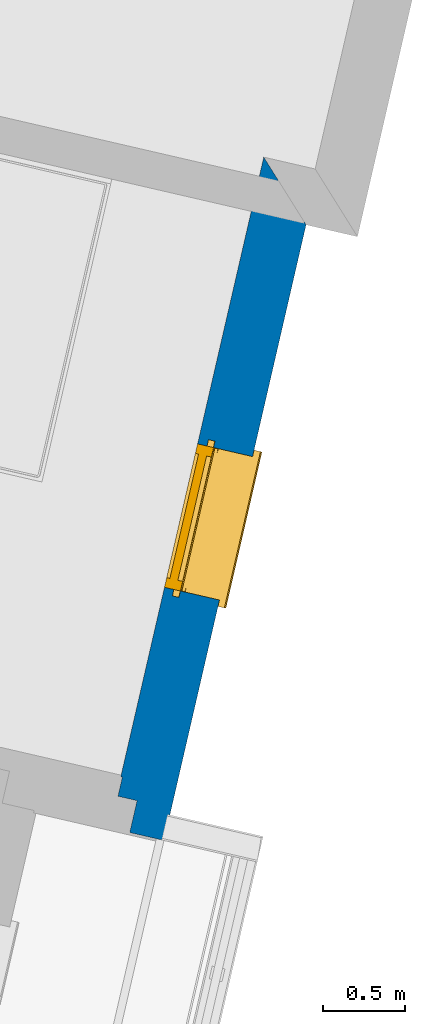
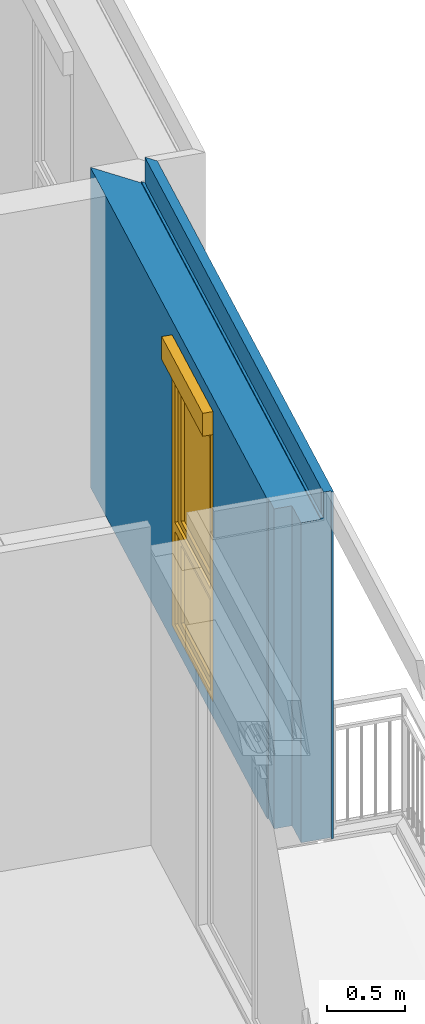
# One storey, part 17 of 91: 1 wall, 1 window, 1 opening.
"""IFC2X3 building model written with IfcOpenShell, lengths in metres."""

from ifc_helpers import new_model, entity, si_unit, converted_unit, derived_unit, money_unit, direction, frame, origin_with_axes, place, context, subcontext, project, spatial, open_shell, faceted_brep, surface_model, source, transform, mapped, material, material_list, type_object, element, fill, save


model = new_model("IFC2X3")

# Units and contexts
model_context = context("Model", 3, precision=1e-05, world=origin_with_axes(), true_north=direction((0.0, 1.0)))
body_context = subcontext(model_context, "Body", "Model", "MODEL_VIEW")
ifc_project = project(units=[si_unit("LENGTHUNIT", "METRE"), si_unit("AREAUNIT", "SQUARE_METRE"), si_unit("VOLUMEUNIT", "CUBIC_METRE"), converted_unit("PLANEANGLEUNIT", "DEGREE", entity("IfcPlaneAngleMeasure", 0.0174532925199), si_unit("PLANEANGLEUNIT", "RADIAN"), dimensions=[0, 0, 0, 0, 0, 0, 0]), si_unit("SOLIDANGLEUNIT", "STERADIAN"), money_unit("EUR"), converted_unit("TIMEUNIT", "Year", entity("IfcTimeMeasure", 31556926.0), si_unit("TIMEUNIT", "SECOND"), dimensions=[0, 0, 1, 0, 0, 0, 0]), si_unit("MASSUNIT", "GRAM", prefix="KILO"), si_unit("THERMODYNAMICTEMPERATUREUNIT", "DEGREE_CELSIUS"), si_unit("LUMINOUSINTENSITYUNIT", "LUMEN"), si_unit("ENERGYUNIT", "JOULE", prefix="MEGA"), derived_unit("THERMALCONDUCTANCEUNIT", [(si_unit("POWERUNIT", "WATT"), 1), (si_unit("LENGTHUNIT", "METRE"), -1), (si_unit("THERMODYNAMICTEMPERATUREUNIT", "KELVIN"), -1)]), derived_unit("SPECIFICHEATCAPACITYUNIT", [(si_unit("ENERGYUNIT", "JOULE"), 1), (si_unit("MASSUNIT", "GRAM", prefix="KILO"), -1), (si_unit("THERMODYNAMICTEMPERATUREUNIT", "KELVIN"), -1)]), derived_unit("MASSDENSITYUNIT", [(si_unit("MASSUNIT", "GRAM", prefix="KILO"), 1), (si_unit("VOLUMEUNIT", "CUBIC_METRE"), -1)])], contexts=[model_context])

# Site, building, storey
site_placement = place(None, origin_with_axes())
site = spatial("IfcSite", under=ifc_project, at=site_placement, Name="Site", CompositionType="ELEMENT")
building_placement = place(site_placement, origin_with_axes())
building = spatial("IfcBuilding", under=site, at=building_placement, Name="Bâtiment", CompositionType="ELEMENT")
storey_placement = place(building_placement, frame((0.0, 0.0, 5.44), z_axis=(0.0, 0.0, 1.0), x_axis=(1.0, 0.0, 0.0)))
storey = spatial("IfcBuildingStorey", under=building, at=storey_placement, Name="R+2", CompositionType="ELEMENT", Elevation=5.44)

# Wall, opening, window
ifc_material_1 = material(Name="Finition ext - Crépis")
ifc_material_2 = material(Name="Béton cellulaire")
ifc_material_3 = material(Name="Mortier")
ifc_material_4 = material(Name="Isolation - Polystyrène expansé")
ifc_material_5 = material(Name="Bloc ELITHERM")
ifc_material_6 = material(Name="Isolation - Polystyrène extrudé")
ifc_material_7 = material(Name="Finition int - Plaque de plâtre")
ifc_material_list = material_list([ifc_material_1, ifc_material_2, ifc_material_3, ifc_material_4, ifc_material_5, ifc_material_6, ifc_material_7])
wall_type = type_object("IfcWallType", Name="Mur ALKERN + planelle 21 345 x 2720", PredefinedType="USERDEFINED")
wall_placement = place(storey_placement, frame((-5.36567437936, -10.3303941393, 0.0), z_axis=(0.0, 0.0, 1.0), x_axis=(-0.224876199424, -0.974387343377, 0.0)))
wall = element("IfcWall", 1, at=wall_placement, inside=storey, type_object=wall_type, material=ifc_material_list, Name="Mue bloc ALKERN isolé", ObjectType="SOLIDWALL", context=body_context, shape_type="Brep", body=[
    faceted_brep([(1.4538266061, -0.0149999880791, 0.12), (1.4538266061, 0.0, 0.12), (1.4538266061, 0.0, 2.22), (1.4538266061, -0.0149999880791, 2.22), (1.4538266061, -7.00355196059e-09, 0.06), (1.4538266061, -0.0149999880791, 0.06), (3.70232660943, -7.00355373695e-09, 0.01), (3.70232660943, -3.16101811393e-10, 0.0), (-7.00355506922e-09, -7.0035515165e-09, 0.0), (-7.00355506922e-09, -7.0035515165e-09, 2.72), (3.87732660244, 0.0, 2.72), (3.87732660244, 0.0, 0.0), (3.86232660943, 0.0, 0.0), (3.85234608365, -7.00355373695e-09, 0.0106237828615), (3.71230713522, -7.00355373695e-09, 0.0193762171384), (2.3538266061, -7.00355329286e-09, 0.06), (2.3538266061, 0.0, 0.12), (2.3538266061, 0.0, 2.22), (2.3538266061, -0.0149999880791, 2.22), (3.87732660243, -0.0149999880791, 0.0), (3.87732660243, -0.0149999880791, 2.72), (-0.0149999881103, -0.0149999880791, 2.72), (-0.0149999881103, -0.0149999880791, 0.0), (3.70232660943, -0.0149999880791, 0.0), (3.70232660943, -0.0149999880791, 0.01), (3.71230713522, -0.0149999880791, 0.0193762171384), (3.85234608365, -0.0149999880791, 0.0106237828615), (3.86232660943, -0.0149999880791, 0.0), (2.3538266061, -0.0149999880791, 0.12), (2.3538266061, -0.0149999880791, 0.06)], [[[0, 1, 2, 3]], [[4, 1, 0, 5]], [[6, 7, 8, 9, 10, 11, 12, 13, 14], [15, 16, 17, 2, 1, 4]], [[17, 18, 3, 2]], [[19, 20, 21, 22, 23, 24, 25, 26, 27], [5, 0, 3, 18, 28, 29]], [[15, 4, 5, 29]], [[6, 24, 23, 7]], [[23, 22, 8, 7]], [[21, 9, 8, 22]], [[9, 21, 20, 10]], [[11, 10, 20, 19]], [[12, 11, 19, 27]], [[12, 27, 26, 13]], [[13, 26, 25, 14]], [[14, 25, 24, 6]], [[28, 16, 15, 29]], [[16, 28, 18, 17]]]),
    faceted_brep([(3.86232662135, -0.0629999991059, 2.72), (3.86232662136, -0.015, 2.72), (-0.0150000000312, -0.015, 2.72), (-0.0629999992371, -0.0629999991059, 2.72), (3.86232662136, -0.015, 2.51999999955), (3.86232662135, -0.0629999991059, 2.51999999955), (-0.0150000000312, -0.015, 2.51999998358), (-0.0629999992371, -0.0629999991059, 2.51999998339)], [[[0, 1, 2, 3]], [[4, 1, 0, 5]], [[1, 4, 6, 2]], [[7, 3, 2, 6]], [[5, 0, 3, 7]], [[4, 5, 7, 6]]]),
    faceted_brep([(3.86232662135, -0.0829999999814, 2.51999999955), (3.86232662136, -0.015, 2.51999999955), (-0.0150000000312, -0.015, 2.51999998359), (-0.0829999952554, -0.0829999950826, 2.51999998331), (3.86232662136, -0.015, 2.50999999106), (3.86232662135, -0.0829999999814, 2.50999999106), (-0.0150000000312, -0.015, 2.51000000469), (-0.0829999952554, -0.0829999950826, 2.51000000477)], [[[0, 1, 2, 3]], [[4, 1, 0, 5]], [[1, 4, 6, 2]], [[7, 3, 2, 6]], [[5, 0, 3, 7]], [[4, 5, 7, 6]]]),
    faceted_brep([(-0.0257353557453, -0.0630000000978, 2.51999998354), (-0.0257353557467, -0.0630000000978, 2.72), (3.81432661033, -0.0630000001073, 2.72), (3.81432661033, -0.0630000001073, 2.51999999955), (-0.0257353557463, -0.0649033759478, 2.72), (-0.0257353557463, -0.0649033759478, 2.51999998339), (3.81432661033, -0.0649033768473, 2.72), (3.81432661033, -0.0649033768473, 2.51999999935)], [[[0, 1, 2, 3]], [[4, 1, 0, 5]], [[4, 6, 2, 1]], [[6, 7, 3, 2]], [[5, 0, 3, 7]], [[6, 4, 5, 7]]]),
    faceted_brep([(1.4538266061, -0.214999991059, 0.12), (1.4538266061, -0.214999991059, 0.06), (1.4538266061, -0.015, 0.06), (1.4538266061, -0.015, 0.12), (1.4538266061, -0.015, 2.22), (1.4538266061, -0.214999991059, 2.22), (-0.214999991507, -0.214999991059, 2.51000000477), (-0.214999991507, -0.214999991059, 0.0), (3.86232662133, -0.214999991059, 0.0), (3.86232662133, -0.214999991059, 2.50999999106), (2.3538266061, -0.214999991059, 2.22), (2.3538266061, -0.214999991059, 0.12), (2.3538266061, -0.214999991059, 0.06), (2.3538266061, -0.015, 0.06), (-0.0150000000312, -0.015, 0.0), (-0.0150000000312, -0.015, 2.51000000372), (3.86232662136, -0.015, 2.50999999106), (3.86232662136, -0.015, 0.0), (2.3538266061, -0.015, 0.12), (2.3538266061, -0.015, 2.22), (-0.0829999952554, -0.0829999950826, 2.51000000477), (3.86232662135, -0.0829999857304, 2.50999999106)], [[[0, 1, 2, 3, 4, 5]], [[6, 7, 8, 9], [1, 0, 5, 10, 11, 12]], [[13, 2, 1, 12]], [[14, 15, 16, 17], [13, 18, 19, 4, 3, 2]], [[19, 10, 5, 4]], [[7, 6, 20, 15, 14]], [[7, 14, 17, 8]], [[8, 17, 16, 21, 9]], [[20, 6, 9, 21]], [[18, 13, 12, 11, 10, 19]], [[15, 20, 21, 16]]]),
    faceted_brep([(1.4538266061, -0.286, 0.12), (1.4538266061, -0.286, 0.06), (1.4538266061, -0.215000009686, 0.06), (1.4538266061, -0.215000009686, 0.12), (1.4538266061, -0.215, 2.22), (1.4538266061, -0.215, 2.4), (1.4538266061, -0.335000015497, 2.4), (1.4538266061, -0.335000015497, 2.22), (1.4538266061, -0.335000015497, 0.12), (2.3538266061, -0.286, 0.12), (2.3538266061, -0.286, 0.06), (2.3538266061, -0.215000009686, 0.06), (-0.215000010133, -0.215000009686, 2.51000000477), (3.66232661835, -0.215000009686, 2.50999999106), (3.66232661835, -0.215000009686, 0.0), (-0.215000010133, -0.215000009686, 0.0), (2.3538266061, -0.215000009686, 0.12), (2.3538266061, -0.215, 2.22), (2.3538266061, -0.215, 2.4), (2.3538266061, -0.335000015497, 2.4), (-0.335000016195, -0.335000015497, 0.0), (3.66232661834, -0.335000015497, 0.0), (3.66232661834, -0.335000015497, 2.50999999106), (-0.335000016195, -0.335000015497, 2.51000000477), (2.3538266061, -0.335000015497, 2.22), (2.3538266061, -0.335000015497, 0.12)], [[[0, 1, 2, 3, 4, 5, 6, 7, 8]], [[0, 9, 10, 1]], [[11, 2, 1, 10]], [[12, 13, 14, 15], [11, 16, 17, 18, 5, 4, 3, 2]], [[18, 19, 6, 5]], [[20, 21, 22, 23], [8, 7, 6, 19, 24, 25]], [[9, 0, 8, 25]], [[16, 11, 10, 9, 25, 24, 19, 18, 17]], [[23, 22, 13, 12]], [[21, 14, 13, 22]], [[15, 14, 21, 20]], [[15, 20, 23, 12]]]),
    faceted_brep([(3.5423265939, -0.335000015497, 0.0), (-0.335000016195, -0.335000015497, 0.0), (-0.335000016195, -0.335000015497, 2.51000000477), (3.5423265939, -0.335000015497, 2.51), (2.3538266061, -0.335000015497, 2.22), (2.3538266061, -0.335000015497, 2.4), (1.4538266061, -0.335000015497, 2.4), (1.4538266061, -0.335000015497, 2.22), (1.4538266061, -0.335000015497, 0.12), (2.3538266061, -0.335000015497, 0.12), (3.5423265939, -0.344999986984, 0.0), (-0.344999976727, -0.344999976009, 0.0), (-0.344999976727, -0.344999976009, 2.51000000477), (3.5423265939, -0.344999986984, 2.51), (2.3538266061, -0.344999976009, 2.22), (2.3538266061, -0.344999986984, 2.4), (2.3538266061, -0.344999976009, 0.12), (1.4538266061, -0.344999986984, 2.4), (1.4538266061, -0.344999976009, 2.22), (1.4538266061, -0.344999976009, 0.12)], [[[0, 1, 2, 3], [4, 5, 6, 7, 8, 9]], [[10, 11, 1, 0]], [[12, 2, 1, 11]], [[3, 2, 12, 13]], [[3, 13, 10, 0]], [[14, 15, 5, 4, 9, 16]], [[6, 5, 15, 17]], [[7, 6, 17, 18, 19, 8]], [[8, 19, 16, 9]], [[13, 12, 11, 10], [15, 14, 16, 19, 18, 17]]]),
])
opening_placement = place(wall_placement, frame((1.9038266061, 0.0, 0.12), z_axis=(0.0, 0.0, 1.0), x_axis=(1.0, 0.0, 0.0)))
opening = element("IfcOpeningElement", 2, at=opening_placement, cuts=wall, Name="MEN 96", context=body_context, shape_type="Brep", body=[
    faceted_brep([(-0.45, -0.245, 0.0), (0.45, -0.245, 0.0), (0.45, -0.83499998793, 0.0), (-0.45, -0.83499998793, 0.0), (-0.45, -0.245, 2.1), (0.45, -0.245, 2.1), (0.45, -0.83499998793, 2.1), (-0.45, -0.83499998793, 2.1)], [[[0, 1, 2, 3]], [[0, 4, 5, 1]], [[1, 5, 6, 2]], [[3, 2, 6, 7]], [[4, 0, 3, 7]], [[5, 4, 7, 6]]]),
    faceted_brep([(-0.45, -0.245, 0.0), (-0.45, -0.245, 2.1), (-0.45, 0.34499998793, 2.1), (-0.45, 0.34499998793, 0.0), (0.45, -0.245, 0.0), (0.45, -0.245, 2.1), (0.45, 0.34499998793, 2.1), (0.45, 0.34499998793, 0.0)], [[[0, 1, 2, 3]], [[0, 4, 5, 1]], [[1, 5, 6, 2]], [[3, 2, 6, 7]], [[4, 0, 3, 7]], [[5, 4, 7, 6]]]),
    faceted_brep([(-0.45, -0.245, 0.0), (-0.45, -0.245, 2.1), (-0.45, 0.34499998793, 2.1), (-0.45, 0.34499998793, 0.0), (0.45, -0.245, 0.0), (0.45, -0.245, 2.1), (0.45, 0.34499998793, 2.1), (0.45, 0.34499998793, 0.0)], [[[0, 1, 2, 3]], [[0, 4, 5, 1]], [[1, 5, 6, 2]], [[3, 2, 6, 7]], [[4, 0, 3, 7]], [[5, 4, 7, 6]]]),
    faceted_brep([(-0.45, -0.215, 2.1), (0.45, -0.215, 2.1), (0.45, -0.80499998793, 2.1), (-0.45, -0.80499998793, 2.1), (-0.45, -0.215, 2.28), (0.45, -0.215, 2.28), (0.45, -0.80499998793, 2.28), (-0.45, -0.80499998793, 2.28)], [[[0, 1, 2, 3]], [[0, 4, 5, 1]], [[1, 5, 6, 2]], [[3, 2, 6, 7]], [[4, 0, 3, 7]], [[5, 4, 7, 6]]]),
    faceted_brep([(-0.45, -0.286, 0.0), (0.45, -0.286, 0.0), (0.45, 0.30399998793, 0.0), (-0.45, 0.30399998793, 0.0), (-0.45, -0.286, -0.06), (0.45, -0.286, -0.06), (0.45, 0.30399998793, -0.06), (-0.45, 0.30399998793, -0.06)], [[[0, 1, 2, 3]], [[0, 4, 5, 1]], [[1, 5, 6, 2]], [[3, 2, 6, 7]], [[4, 0, 3, 7]], [[5, 4, 7, 6]]]),
])
window_style = type_object("IfcWindowStyle", Name="Baie générique 2017 v2", ConstructionType="NOTDEFINED", OperationType="NOTDEFINED", ParameterTakesPrecedence=False, Sizeable=False)
shared_shape = source(origin_with_axes(), body_context, "Body", "SurfaceModel", [
    faceted_brep([(0.45, 0.0, 2.1), (-0.45, 0.0, 2.1), (-0.45, 0.0, 0.0), (0.45, 0.0, 0.0), (-0.39, 0.0, 0.85), (-0.39, 0.0, 2.05), (0.39, 0.0, 2.05), (0.39, 0.0, 0.85), (-0.39, 0.0, 0.78), (0.39, 0.0, 0.78), (0.39, 0.0, 0.05), (-0.39, 0.0, 0.05), (0.45, 0.1, 2.1), (-0.45, 0.1, 2.1), (-0.45, 0.1, 0.0), (0.45, 0.1, 0.0), (-0.39, 0.1, 0.85), (-0.39, 0.1, 2.05), (0.39, 0.1, 2.05), (0.39, 0.1, 0.85), (-0.39, 0.1, 0.78), (0.39, 0.1, 0.78), (0.39, 0.1, 0.05), (-0.39, 0.1, 0.05)], [[[0, 1, 2, 3], [4, 5, 6, 7], [8, 9, 10, 11]], [[1, 0, 12, 13]], [[2, 1, 13, 14]], [[3, 2, 14, 15]], [[0, 3, 15, 12]], [[16, 17, 5, 4]], [[6, 5, 17, 18]], [[7, 6, 18, 19]], [[4, 7, 19, 16]], [[20, 21, 9, 8]], [[21, 22, 10, 9]], [[11, 10, 22, 23]], [[8, 11, 23, 20]], [[14, 13, 12, 15], [16, 19, 18, 17], [20, 23, 22, 21]]]),
    faceted_brep([(-0.39, 0.08, 2.05), (0.39, 0.08, 2.05), (0.39, 0.08, 0.85), (-0.39, 0.08, 0.85), (-0.32, 0.08, 1.98), (-0.32, 0.08, 0.9), (0.32, 0.08, 0.9), (0.32, 0.08, 1.98), (-0.39, 0.03, 2.05), (0.39, 0.03, 2.05), (0.39, 0.03, 0.85), (-0.39, 0.03, 0.85), (-0.32, 0.03, 1.98), (-0.32, 0.03, 0.9), (0.32, 0.03, 0.9), (0.32, 0.03, 1.98)], [[[0, 1, 2, 3], [4, 5, 6, 7]], [[0, 8, 9, 1]], [[9, 10, 2, 1]], [[10, 11, 3, 2]], [[3, 11, 8, 0]], [[4, 12, 13, 5]], [[13, 14, 6, 5]], [[14, 15, 7, 6]], [[7, 15, 12, 4]], [[9, 8, 11, 10], [13, 12, 15, 14]]]),
    surface_model("IfcShellBasedSurfaceModel", [(0.39, 0.08, 0.85), (0.39, 0.08, 2.05), (0.39, 0.055, 2.05), (0.39, 0.055, 0.85)], [open_shell([[[0, 1, 2, 3]]])]),
    surface_model("IfcShellBasedSurfaceModel", [(-0.39, 0.08, 0.85), (-0.39, 0.08, 2.05), (-0.39, 0.055, 2.05), (-0.39, 0.055, 0.85)], [open_shell([[[0, 1, 2, 3]]])]),
    surface_model("IfcShellBasedSurfaceModel", [(0.39, 0.08, 0.85), (-0.39, 0.08, 0.85), (-0.39, 0.055, 0.85), (0.39, 0.055, 0.85)], [open_shell([[[0, 1, 2, 3]]])]),
    surface_model("IfcShellBasedSurfaceModel", [(0.39, 0.08, 2.05), (-0.39, 0.08, 2.05), (-0.39, 0.055, 2.05), (0.39, 0.055, 2.05)], [open_shell([[[0, 1, 2, 3]]])]),
    surface_model("IfcShellBasedSurfaceModel", [(0.39, 0.055, 0.85), (0.39, 0.055, 2.05), (0.39, 0.03, 2.05), (0.39, 0.03, 0.85)], [open_shell([[[0, 1, 2, 3]]])]),
    surface_model("IfcShellBasedSurfaceModel", [(-0.39, 0.055, 0.85), (-0.39, 0.055, 2.05), (-0.39, 0.03, 2.05), (-0.39, 0.03, 0.85)], [open_shell([[[0, 1, 2, 3]]])]),
    surface_model("IfcShellBasedSurfaceModel", [(0.39, 0.055, 0.85), (-0.39, 0.055, 0.85), (-0.39, 0.03, 0.85), (0.39, 0.03, 0.85)], [open_shell([[[0, 1, 2, 3]]])]),
    surface_model("IfcShellBasedSurfaceModel", [(0.39, 0.055, 2.05), (-0.39, 0.055, 2.05), (-0.39, 0.03, 2.05), (0.39, 0.03, 2.05)], [open_shell([[[0, 1, 2, 3]]])]),
    faceted_brep([(0.32, 0.0575, 0.9), (0.32, 0.0525, 0.9), (-0.32, 0.0525, 0.9), (-0.32, 0.0575, 0.9), (0.32, 0.0575, 1.98), (0.32, 0.0525, 1.98), (-0.32, 0.0525, 1.98), (-0.32, 0.0575, 1.98)], [[[0, 1, 2, 3]], [[4, 5, 1, 0]], [[1, 5, 6, 2]], [[3, 2, 6, 7]], [[0, 3, 7, 4]], [[7, 6, 5, 4]]]),
    faceted_brep([(-0.39, 0.08, 0.78), (0.39, 0.08, 0.78), (0.39, 0.08, 0.05), (-0.39, 0.08, 0.05), (-0.32, 0.08, 0.71), (-0.32, 0.08, 0.1), (0.32, 0.08, 0.1), (0.32, 0.08, 0.71), (-0.39, 0.03, 0.78), (0.39, 0.03, 0.78), (0.39, 0.03, 0.05), (-0.39, 0.03, 0.05), (-0.32, 0.03, 0.71), (-0.32, 0.03, 0.1), (0.32, 0.03, 0.1), (0.32, 0.03, 0.71)], [[[0, 1, 2, 3], [4, 5, 6, 7]], [[0, 8, 9, 1]], [[9, 10, 2, 1]], [[10, 11, 3, 2]], [[3, 11, 8, 0]], [[4, 12, 13, 5]], [[13, 14, 6, 5]], [[14, 15, 7, 6]], [[7, 15, 12, 4]], [[9, 8, 11, 10], [13, 12, 15, 14]]]),
    surface_model("IfcShellBasedSurfaceModel", [(0.39, 0.08, 0.05), (0.39, 0.08, 0.78), (0.39, 0.055, 0.78), (0.39, 0.055, 0.05)], [open_shell([[[0, 1, 2, 3]]])]),
    surface_model("IfcShellBasedSurfaceModel", [(-0.39, 0.08, 0.05), (-0.39, 0.08, 0.78), (-0.39, 0.055, 0.78), (-0.39, 0.055, 0.05)], [open_shell([[[0, 1, 2, 3]]])]),
    surface_model("IfcShellBasedSurfaceModel", [(0.39, 0.08, 0.05), (-0.39, 0.08, 0.05), (-0.39, 0.055, 0.05), (0.39, 0.055, 0.05)], [open_shell([[[0, 1, 2, 3]]])]),
    surface_model("IfcShellBasedSurfaceModel", [(0.39, 0.08, 0.78), (-0.39, 0.08, 0.78), (-0.39, 0.055, 0.78), (0.39, 0.055, 0.78)], [open_shell([[[0, 1, 2, 3]]])]),
    surface_model("IfcShellBasedSurfaceModel", [(0.39, 0.055, 0.05), (0.39, 0.055, 0.78), (0.39, 0.03, 0.78), (0.39, 0.03, 0.05)], [open_shell([[[0, 1, 2, 3]]])]),
    surface_model("IfcShellBasedSurfaceModel", [(-0.39, 0.055, 0.05), (-0.39, 0.055, 0.78), (-0.39, 0.03, 0.78), (-0.39, 0.03, 0.05)], [open_shell([[[0, 1, 2, 3]]])]),
    surface_model("IfcShellBasedSurfaceModel", [(0.39, 0.055, 0.05), (-0.39, 0.055, 0.05), (-0.39, 0.03, 0.05), (0.39, 0.03, 0.05)], [open_shell([[[0, 1, 2, 3]]])]),
    surface_model("IfcShellBasedSurfaceModel", [(0.39, 0.055, 0.78), (-0.39, 0.055, 0.78), (-0.39, 0.03, 0.78), (0.39, 0.03, 0.78)], [open_shell([[[0, 1, 2, 3]]])]),
    faceted_brep([(0.32, 0.0575, 0.1), (0.32, 0.0525, 0.1), (-0.32, 0.0525, 0.1), (-0.32, 0.0575, 0.1), (0.32, 0.0575, 0.71), (0.32, 0.0525, 0.71), (-0.32, 0.0525, 0.71), (-0.32, 0.0575, 0.71)], [[[0, 1, 2, 3]], [[4, 5, 1, 0]], [[1, 5, 6, 2]], [[3, 2, 6, 7]], [[0, 3, 7, 4]], [[7, 6, 5, 4]]]),
    faceted_brep([(0.45, -0.03, 0.0), (0.45, -0.03, 2.1), (0.425, -0.03, 2.1), (0.425, -0.03, 0.0), (0.45, -0.002, 0.0), (0.45, -0.002, 2.1), (0.425, -0.002, 2.1), (0.425, -0.004, 2.1), (0.448, -0.004, 2.1), (0.448, -0.028, 2.1), (0.425, -0.028, 2.1), (0.425, -0.028, 0.0), (0.448, -0.028, 0.0), (0.448, -0.004, 0.0), (0.425, -0.004, 0.0), (0.425, -0.002, 0.0)], [[[0, 1, 2, 3]], [[4, 5, 1, 0]], [[1, 5, 6, 7, 8, 9, 10, 2]], [[3, 2, 10, 11]], [[0, 3, 11, 12, 13, 14, 15, 4]], [[15, 6, 5, 4]], [[14, 7, 6, 15]], [[13, 8, 7, 14]], [[12, 9, 8, 13]], [[11, 10, 9, 12]]]),
    faceted_brep([(-0.45, -0.03, 0.0), (-0.425, -0.03, 0.0), (-0.425, -0.03, 2.1), (-0.45, -0.03, 2.1), (-0.45, -0.002, 0.0), (-0.425, -0.002, 0.0), (-0.425, -0.004, 0.0), (-0.448, -0.004, 0.0), (-0.448, -0.028, 0.0), (-0.425, -0.028, 0.0), (-0.425, -0.028, 2.1), (-0.448, -0.028, 2.1), (-0.448, -0.004, 2.1), (-0.425, -0.004, 2.1), (-0.425, -0.002, 2.1), (-0.45, -0.002, 2.1)], [[[0, 1, 2, 3]], [[0, 4, 5, 6, 7, 8, 9, 1]], [[1, 9, 10, 2]], [[3, 2, 10, 11, 12, 13, 14, 15]], [[4, 0, 3, 15]], [[5, 4, 15, 14]], [[6, 5, 14, 13]], [[7, 6, 13, 12]], [[8, 7, 12, 11]], [[9, 8, 11, 10]]]),
    faceted_brep([(-0.448, -0.028, 2.1), (-0.448, -0.028, 2.278), (0.448, -0.028, 2.278), (0.448, -0.028, 2.1), (-0.448, -0.03, 2.1), (-0.448, -0.03, 2.28), (-0.448, 0.17, 2.28), (-0.448, 0.17, 2.1), (-0.448, 0.168, 2.1), (-0.448, 0.168, 2.278), (0.448, 0.168, 2.278), (0.448, 0.168, 2.1), (0.448, 0.17, 2.1), (0.448, 0.17, 2.28), (0.448, -0.03, 2.28), (0.448, -0.03, 2.1)], [[[0, 1, 2, 3]], [[0, 4, 5, 6, 7, 8, 9, 1]], [[1, 9, 10, 2]], [[3, 2, 10, 11, 12, 13, 14, 15]], [[4, 0, 3, 15]], [[5, 4, 15, 14]], [[6, 5, 14, 13]], [[7, 6, 13, 12]], [[8, 7, 12, 11]], [[9, 8, 11, 10]]]),
    faceted_brep([(-0.448, 0.0724697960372, 2.17436337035), (-0.448, 0.0555495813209, 2.17050144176), (-0.448, 0.041980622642, 2.18132232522), (-0.448, 0.041980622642, 2.19867767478), (-0.448, 0.0555495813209, 2.20949855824), (-0.448, 0.0724697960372, 2.20563662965), (-0.448, 0.08, 2.19), (0.448, 0.0724697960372, 2.17436337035), (0.448, 0.0555495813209, 2.17050144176), (0.448, 0.041980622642, 2.18132232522), (0.448, 0.041980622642, 2.19867767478), (0.448, 0.0555495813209, 2.20949855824), (0.448, 0.0724697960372, 2.20563662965), (0.448, 0.08, 2.19)], [[[0, 1, 2, 3, 4, 5, 6]], [[1, 0, 7, 8]], [[2, 1, 8, 9]], [[3, 2, 9, 10]], [[4, 3, 10, 11]], [[5, 4, 11, 12]], [[6, 5, 12, 13]], [[0, 6, 13, 7]], [[7, 13, 12, 11, 10, 9, 8]]]),
    faceted_brep([(-0.438, 0.130275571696, 2.15615706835), (-0.438, 0.108632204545, 2.12901714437), (-0.438, 0.0773566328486, 2.11395562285), (-0.438, 0.0426433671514, 2.11395562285), (-0.438, 0.011367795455, 2.12901714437), (-0.438, -0.0102755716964, 2.15615706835), (-0.438, -0.018, 2.19), (-0.438, -0.0102755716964, 2.22384293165), (-0.438, 0.011367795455, 2.25098285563), (-0.438, 0.0426433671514, 2.26604437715), (-0.438, 0.0773566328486, 2.26604437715), (-0.438, 0.108632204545, 2.25098285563), (-0.438, 0.130275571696, 2.22384293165), (-0.438, 0.138, 2.19), (0.438, 0.130275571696, 2.15615706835), (0.438, 0.108632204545, 2.12901714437), (0.438, 0.0773566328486, 2.11395562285), (0.438, 0.0426433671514, 2.11395562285), (0.438, 0.011367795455, 2.12901714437), (0.438, -0.0102755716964, 2.15615706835), (0.438, -0.018, 2.19), (0.438, -0.0102755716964, 2.22384293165), (0.438, 0.011367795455, 2.25098285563), (0.438, 0.0426433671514, 2.26604437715), (0.438, 0.0773566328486, 2.26604437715), (0.438, 0.108632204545, 2.25098285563), (0.438, 0.130275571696, 2.22384293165), (0.438, 0.138, 2.19)], [[[0, 1, 2, 3, 4, 5, 6, 7, 8, 9, 10, 11, 12, 13]], [[1, 0, 14, 15]], [[2, 1, 15, 16]], [[3, 2, 16, 17]], [[4, 3, 17, 18]], [[5, 4, 18, 19]], [[6, 5, 19, 20]], [[7, 6, 20, 21]], [[8, 7, 21, 22]], [[9, 8, 22, 23]], [[10, 9, 23, 24]], [[11, 10, 24, 25]], [[12, 11, 25, 26]], [[13, 12, 26, 27]], [[0, 13, 27, 14]], [[14, 27, 26, 25, 24, 23, 22, 21, 20, 19, 18, 17, 16, 15]]]),
    faceted_brep([(-0.45, 0.17, 2.1), (-0.45, 0.17, 2.28), (-0.448, 0.17, 2.28), (-0.448, 0.17, 2.1), (-0.45, -0.03, 2.1), (-0.45, -0.03, 2.28), (-0.448, -0.03, 2.28), (-0.448, -0.03, 2.1)], [[[0, 1, 2, 3]], [[0, 4, 5, 1]], [[1, 5, 6, 2]], [[3, 2, 6, 7]], [[4, 0, 3, 7]], [[5, 4, 7, 6]]]),
    faceted_brep([(0.448, 0.17, 2.1), (0.448, 0.17, 2.28), (0.45, 0.17, 2.28), (0.45, 0.17, 2.1), (0.448, -0.03, 2.1), (0.448, -0.03, 2.28), (0.45, -0.03, 2.28), (0.45, -0.03, 2.1)], [[[0, 1, 2, 3]], [[0, 4, 5, 1]], [[1, 5, 6, 2]], [[3, 2, 6, 7]], [[4, 0, 3, 7]], [[5, 4, 7, 6]]]),
    faceted_brep([(-0.448, -0.004, 2.1), (-0.448, 0.168, 2.1), (0.448, 0.168, 2.1), (0.448, -0.004, 2.1), (-0.448, -0.004, 2.102), (-0.448, 0.168, 2.102), (0.448, 0.168, 2.102), (0.448, -0.004, 2.102)], [[[0, 1, 2, 3]], [[0, 4, 5, 1]], [[1, 5, 6, 2]], [[3, 2, 6, 7]], [[4, 0, 3, 7]], [[5, 4, 7, 6]]]),
    faceted_brep([(-0.438, -0.006, 2.1), (-0.438, -0.006, 2.19), (0.438, -0.006, 2.19), (0.438, -0.006, 2.1), (-0.438, -0.026, 2.1), (-0.438, -0.026, 2.19), (0.438, -0.026, 2.19), (0.438, -0.026, 2.1)], [[[0, 1, 2, 3]], [[1, 0, 4, 5]], [[2, 1, 5, 6]], [[3, 2, 6, 7]], [[4, 0, 3, 7]], [[5, 4, 7, 6]]]),
    faceted_brep([(-0.45, -0.00167949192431, -0.01), (0.45, -0.00167949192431, -0.01), (0.45, 0.0, -0.00373205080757), (0.49, 0.0, -0.00373205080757), (0.49, 0.001, 0.0), (-0.49, 0.001, 0.0), (-0.49, 0.0, -0.00373205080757), (-0.45, 0.0, -0.00373205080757), (-0.45, -0.009, -0.0173205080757), (0.45, -0.009, -0.0173205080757), (0.45, -0.245, -0.02), (0.45, -0.245, -0.06), (0.45, 0.0, -0.06), (0.45, -0.019, -0.02), (0.49, 0.0, -0.06), (0.49, 0.041, -0.06), (0.49, 0.041, 0.0), (-0.49, 0.041, 0.0), (-0.49, 0.041, -0.06), (-0.49, 0.0, -0.06), (-0.45, 0.0, -0.06), (-0.45, -0.245, -0.06), (-0.45, -0.245, -0.02), (-0.45, -0.019, -0.02), (0.49, -0.245, -0.02), (0.49, -0.245, -0.06), (0.49, -0.275, -0.06), (-0.49, -0.275, -0.06), (-0.49, -0.245, -0.06), (-0.49, -0.245, -0.02), (-0.49, -0.285, -0.02), (0.49, -0.285, -0.02), (0.49, -0.295, -0.03), (0.49, -0.295, -0.06), (0.49, -0.285, -0.06), (0.49, -0.285, -0.05), (0.49, -0.275, -0.05), (0.49, -0.292071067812, -0.0229289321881), (-0.49, -0.275, -0.05), (-0.49, -0.285, -0.05), (-0.49, -0.285, -0.06), (-0.49, -0.295, -0.06), (-0.49, -0.295, -0.03), (-0.49, -0.292071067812, -0.0229289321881)], [[[0, 1, 2, 3, 4, 5, 6, 7]], [[8, 9, 1, 0]], [[10, 11, 12, 2, 1, 9, 13]], [[3, 2, 12, 14]], [[4, 3, 14, 15, 16]], [[16, 17, 5, 4]], [[6, 5, 17, 18, 19]], [[19, 20, 7, 6]], [[7, 20, 21, 22, 23, 8, 0]], [[23, 13, 9, 8]], [[10, 24, 25, 11]], [[21, 20, 19, 18, 15, 14, 12, 11, 25, 26, 27, 28]], [[22, 29, 30, 31, 24, 10, 13, 23]], [[15, 18, 17, 16]], [[22, 21, 28, 29]], [[32, 33, 34, 35, 36, 26, 25, 24, 31, 37]], [[36, 38, 27, 26]], [[28, 27, 38, 39, 40, 41, 42, 43, 30, 29]], [[31, 30, 43, 37]], [[32, 42, 41, 33]], [[33, 41, 40, 34]], [[34, 40, 39, 35]], [[35, 39, 38, 36]], [[37, 43, 42, 32]]]),
])
window_placement = place(opening_placement, frame((0.45, 0.0, 0.0), z_axis=(0.0, 0.0, 1.0), x_axis=(-1.0, 0.0, 0.0)))
window = element("IfcWindow", 3, at=window_placement, inside=storey, type_object=window_style, Name="MEN 96", ObjectType="WINDOW", OverallHeight=2.1, OverallWidth=0.9, context=body_context, shape_type="MappedRepresentation", body=[
    mapped(shared_shape, transform((0.45, 0.245, 0.0))),
])
fill(opening, window)

save(model, "model.ifc")
